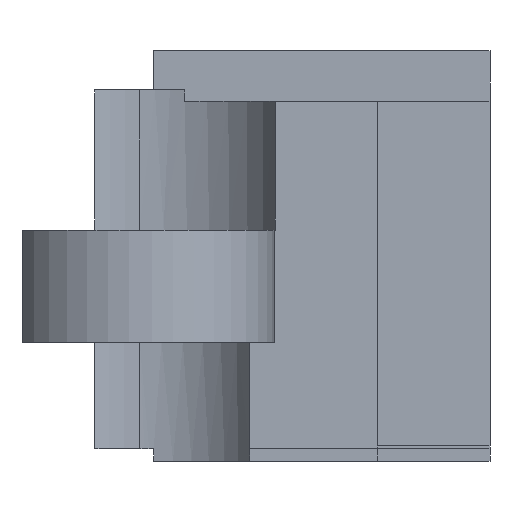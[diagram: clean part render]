
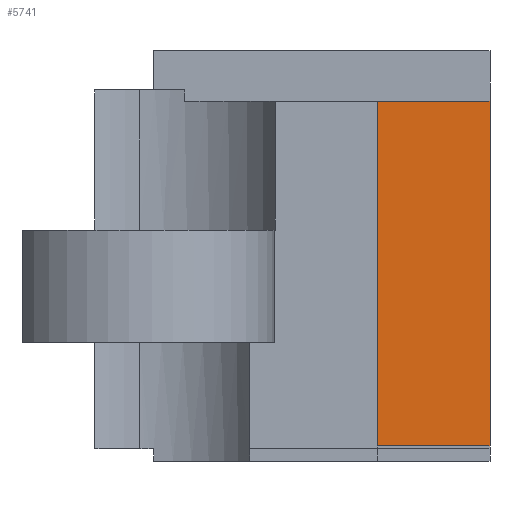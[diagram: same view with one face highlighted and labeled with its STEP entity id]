
A CAD part, left-side view. The second image highlights one B-rep face of the part: STEP entity #5741.
In plain terms, the highlighted planar face has unit normal (-1, 0, 0).
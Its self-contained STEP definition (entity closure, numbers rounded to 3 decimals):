
#3020 = PLANE('',#3021);
#3021 = AXIS2_PLACEMENT_3D('',#3022,#3023,#3024);
#3022 = CARTESIAN_POINT('',(16.8,-12.3,-10.4));
#3023 = DIRECTION('',(1.,0.,-0.));
#3024 = DIRECTION('',(0.,0.,1.));
#4084 = PLANE('',#4085);
#4085 = AXIS2_PLACEMENT_3D('',#4086,#4087,#4088);
#4086 = CARTESIAN_POINT('',(16.8,-12.3,-10.4));
#4087 = DIRECTION('',(1.,0.,-0.));
#4088 = DIRECTION('',(0.,0.,1.));
#4100 = VERTEX_POINT('',#4101);
#4101 = CARTESIAN_POINT('',(16.8,-10.3,-10.35));
#4255 = VERTEX_POINT('',#4256);
#4256 = CARTESIAN_POINT('',(16.8,-10.3,-4.2));
#4282 = EDGE_CURVE('',#4100,#4255,#4283,.T.);
#4283 = SURFACE_CURVE('',#4284,(#4288,#4295),.PCURVE_S1.);
#4284 = LINE('',#4285,#4286);
#4285 = CARTESIAN_POINT('',(16.8,-10.3,-10.4));
#4286 = VECTOR('',#4287,1.);
#4287 = DIRECTION('',(0.,0.,1.));
#4288 = PCURVE('',#3020,#4289);
#4289 = DEFINITIONAL_REPRESENTATION('',(#4290),#4294);
#4290 = LINE('',#4291,#4292);
#4291 = CARTESIAN_POINT('',(0.,-2.));
#4292 = VECTOR('',#4293,1.);
#4293 = DIRECTION('',(1.,0.));
#4294 = ( GEOMETRIC_REPRESENTATION_CONTEXT(2) 
PARAMETRIC_REPRESENTATION_CONTEXT() REPRESENTATION_CONTEXT('2D SPACE',''
  ) );
#4295 = PCURVE('',#4296,#4301);
#4296 = PLANE('',#4297);
#4297 = AXIS2_PLACEMENT_3D('',#4298,#4299,#4300);
#4298 = CARTESIAN_POINT('',(16.8,-12.3,-10.4));
#4299 = DIRECTION('',(1.,0.,-0.));
#4300 = DIRECTION('',(0.,0.,1.));
#4301 = DEFINITIONAL_REPRESENTATION('',(#4302),#4306);
#4302 = LINE('',#4303,#4304);
#4303 = CARTESIAN_POINT('',(0.,-2.));
#4304 = VECTOR('',#4305,1.);
#4305 = DIRECTION('',(1.,0.));
#4306 = ( GEOMETRIC_REPRESENTATION_CONTEXT(2) 
PARAMETRIC_REPRESENTATION_CONTEXT() REPRESENTATION_CONTEXT('2D SPACE',''
  ) );
#5259 = PLANE('',#5260);
#5260 = AXIS2_PLACEMENT_3D('',#5261,#5262,#5263);
#5261 = CARTESIAN_POINT('',(16.8,-12.3,-10.4));
#5262 = DIRECTION('',(-0.,1.,0.));
#5263 = DIRECTION('',(0.,0.,1.));
#5671 = VERTEX_POINT('',#5672);
#5672 = CARTESIAN_POINT('',(16.8,-12.3,-10.35));
#5721 = EDGE_CURVE('',#5671,#4100,#5722,.T.);
#5722 = SURFACE_CURVE('',#5723,(#5727,#5734),.PCURVE_S1.);
#5723 = LINE('',#5724,#5725);
#5724 = CARTESIAN_POINT('',(16.8,-12.3,-10.35));
#5725 = VECTOR('',#5726,1.);
#5726 = DIRECTION('',(-0.,1.,0.));
#5727 = PCURVE('',#4084,#5728);
#5728 = DEFINITIONAL_REPRESENTATION('',(#5729),#5733);
#5729 = LINE('',#5730,#5731);
#5730 = CARTESIAN_POINT('',(0.05,0.));
#5731 = VECTOR('',#5732,1.);
#5732 = DIRECTION('',(0.,-1.));
#5733 = ( GEOMETRIC_REPRESENTATION_CONTEXT(2) 
PARAMETRIC_REPRESENTATION_CONTEXT() REPRESENTATION_CONTEXT('2D SPACE',''
  ) );
#5734 = PCURVE('',#4296,#5735);
#5735 = DEFINITIONAL_REPRESENTATION('',(#5736),#5740);
#5736 = LINE('',#5737,#5738);
#5737 = CARTESIAN_POINT('',(0.05,0.));
#5738 = VECTOR('',#5739,1.);
#5739 = DIRECTION('',(0.,-1.));
#5740 = ( GEOMETRIC_REPRESENTATION_CONTEXT(2) 
PARAMETRIC_REPRESENTATION_CONTEXT() REPRESENTATION_CONTEXT('2D SPACE',''
  ) );
#5741 = ADVANCED_FACE('',(#5742),#4296,.F.);
#5742 = FACE_BOUND('',#5743,.F.);
#5743 = EDGE_LOOP('',(#5744,#5767,#5768,#5769));
#5744 = ORIENTED_EDGE('',*,*,#5745,.F.);
#5745 = EDGE_CURVE('',#5671,#5746,#5748,.T.);
#5746 = VERTEX_POINT('',#5747);
#5747 = CARTESIAN_POINT('',(16.8,-12.3,-4.2));
#5748 = SURFACE_CURVE('',#5749,(#5753,#5760),.PCURVE_S1.);
#5749 = LINE('',#5750,#5751);
#5750 = CARTESIAN_POINT('',(16.8,-12.3,-10.4));
#5751 = VECTOR('',#5752,1.);
#5752 = DIRECTION('',(0.,0.,1.));
#5753 = PCURVE('',#4296,#5754);
#5754 = DEFINITIONAL_REPRESENTATION('',(#5755),#5759);
#5755 = LINE('',#5756,#5757);
#5756 = CARTESIAN_POINT('',(0.,0.));
#5757 = VECTOR('',#5758,1.);
#5758 = DIRECTION('',(1.,0.));
#5759 = ( GEOMETRIC_REPRESENTATION_CONTEXT(2) 
PARAMETRIC_REPRESENTATION_CONTEXT() REPRESENTATION_CONTEXT('2D SPACE',''
  ) );
#5760 = PCURVE('',#5259,#5761);
#5761 = DEFINITIONAL_REPRESENTATION('',(#5762),#5766);
#5762 = LINE('',#5763,#5764);
#5763 = CARTESIAN_POINT('',(0.,0.));
#5764 = VECTOR('',#5765,1.);
#5765 = DIRECTION('',(1.,0.));
#5766 = ( GEOMETRIC_REPRESENTATION_CONTEXT(2) 
PARAMETRIC_REPRESENTATION_CONTEXT() REPRESENTATION_CONTEXT('2D SPACE',''
  ) );
#5767 = ORIENTED_EDGE('',*,*,#5721,.T.);
#5768 = ORIENTED_EDGE('',*,*,#4282,.T.);
#5769 = ORIENTED_EDGE('',*,*,#5770,.F.);
#5770 = EDGE_CURVE('',#5746,#4255,#5771,.T.);
#5771 = SURFACE_CURVE('',#5772,(#5776,#5783),.PCURVE_S1.);
#5772 = LINE('',#5773,#5774);
#5773 = CARTESIAN_POINT('',(16.8,-12.3,-4.2));
#5774 = VECTOR('',#5775,1.);
#5775 = DIRECTION('',(-0.,1.,0.));
#5776 = PCURVE('',#4296,#5777);
#5777 = DEFINITIONAL_REPRESENTATION('',(#5778),#5782);
#5778 = LINE('',#5779,#5780);
#5779 = CARTESIAN_POINT('',(6.2,0.));
#5780 = VECTOR('',#5781,1.);
#5781 = DIRECTION('',(0.,-1.));
#5782 = ( GEOMETRIC_REPRESENTATION_CONTEXT(2) 
PARAMETRIC_REPRESENTATION_CONTEXT() REPRESENTATION_CONTEXT('2D SPACE',''
  ) );
#5783 = PCURVE('',#5784,#5789);
#5784 = PLANE('',#5785);
#5785 = AXIS2_PLACEMENT_3D('',#5786,#5787,#5788);
#5786 = CARTESIAN_POINT('',(16.8,-12.3,-4.2));
#5787 = DIRECTION('',(0.,0.,1.));
#5788 = DIRECTION('',(1.,0.,-0.));
#5789 = DEFINITIONAL_REPRESENTATION('',(#5790),#5794);
#5790 = LINE('',#5791,#5792);
#5791 = CARTESIAN_POINT('',(0.,0.));
#5792 = VECTOR('',#5793,1.);
#5793 = DIRECTION('',(0.,1.));
#5794 = ( GEOMETRIC_REPRESENTATION_CONTEXT(2) 
PARAMETRIC_REPRESENTATION_CONTEXT() REPRESENTATION_CONTEXT('2D SPACE',''
  ) );
